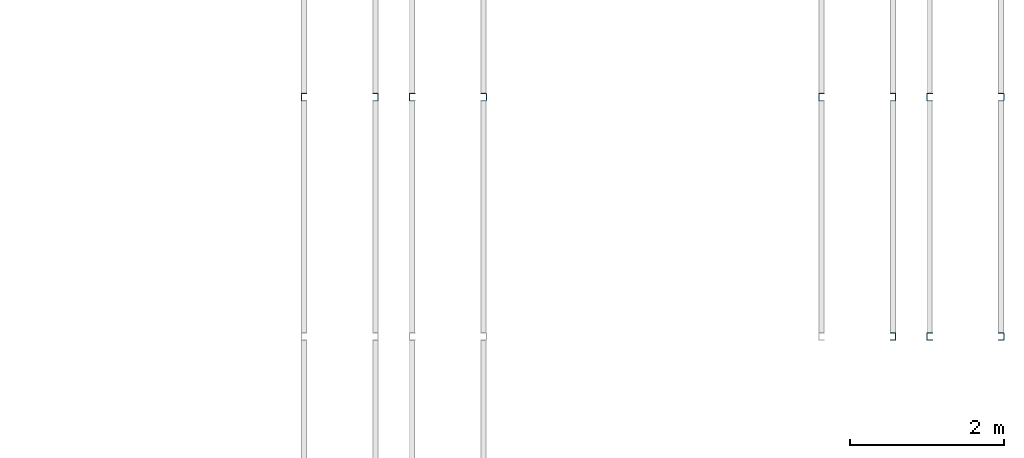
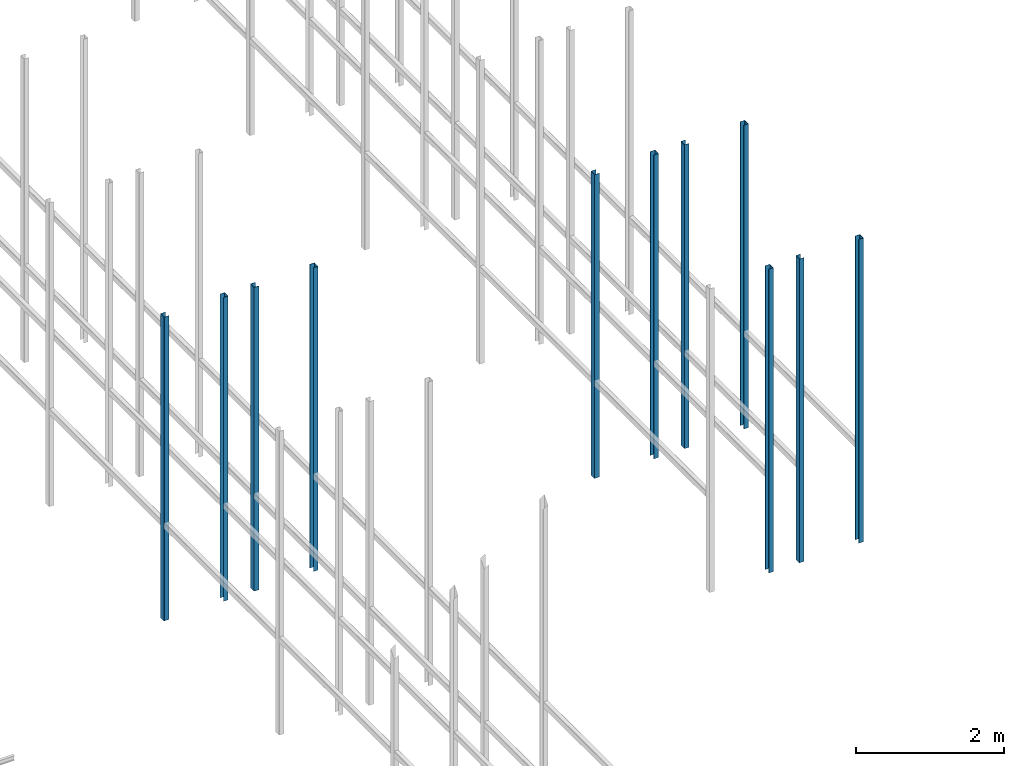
# One storey, part 56 of 302: 11 columns.
"""IFC2X3 building model written with IfcOpenShell, lengths in metres."""

from ifc_helpers import new_model, entity, si_unit, converted_unit, derived_unit, direction, frame, frame_2d, origin, place, context, subcontext, project, spatial, polyline, circle_curve, parameter, trimmed, segment, composite_curve, outline, extrude, source, transform, mapped, material, type_object, type_shapes, element, save


model = new_model("IFC2X3")

# Units and contexts
model_context = context("Model", 3, precision=1e-05, world=origin(), true_north=direction((6.12303176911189e-17, 1.0)))
body_context = subcontext(model_context, "Body", "Model", "MODEL_VIEW")
ifc_project = project(units=[si_unit("LENGTHUNIT", "METRE"), si_unit("AREAUNIT", "SQUARE_METRE"), si_unit("VOLUMEUNIT", "CUBIC_METRE"), converted_unit("PLANEANGLEUNIT", "DEGREE", entity("IfcRatioMeasure", 0.0174532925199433), si_unit("PLANEANGLEUNIT", "RADIAN"), dimensions=[0, 0, 0, 0, 0, 0, 0]), si_unit("MASSUNIT", "GRAM", prefix="KILO"), derived_unit("MASSDENSITYUNIT", [(si_unit("MASSUNIT", "GRAM", prefix="KILO"), 1), (si_unit("LENGTHUNIT", "METRE"), -3)]), derived_unit("MOMENTOFINERTIAUNIT", [(si_unit("LENGTHUNIT", "METRE"), 4)]), si_unit("TIMEUNIT", "SECOND"), si_unit("FREQUENCYUNIT", "HERTZ"), si_unit("THERMODYNAMICTEMPERATUREUNIT", "DEGREE_CELSIUS"), derived_unit("THERMALTRANSMITTANCEUNIT", [(si_unit("MASSUNIT", "GRAM", prefix="KILO"), 1), (si_unit("THERMODYNAMICTEMPERATUREUNIT", "KELVIN"), -1), (si_unit("TIMEUNIT", "SECOND"), -3)]), derived_unit("VOLUMETRICFLOWRATEUNIT", [(si_unit("LENGTHUNIT", "METRE"), 3), (si_unit("TIMEUNIT", "SECOND"), -1)]), si_unit("ELECTRICCURRENTUNIT", "AMPERE"), si_unit("ELECTRICVOLTAGEUNIT", "VOLT"), si_unit("POWERUNIT", "WATT"), si_unit("FORCEUNIT", "NEWTON", prefix="KILO"), si_unit("ILLUMINANCEUNIT", "LUX"), si_unit("LUMINOUSFLUXUNIT", "LUMEN"), si_unit("LUMINOUSINTENSITYUNIT", "CANDELA"), derived_unit("USERDEFINED", [(si_unit("MASSUNIT", "GRAM", prefix="KILO"), -1), (si_unit("LENGTHUNIT", "METRE"), -2), (si_unit("TIMEUNIT", "SECOND"), 3), (si_unit("LUMINOUSFLUXUNIT", "LUMEN"), 1)]), derived_unit("LINEARVELOCITYUNIT", [(si_unit("LENGTHUNIT", "METRE"), 1), (si_unit("TIMEUNIT", "SECOND"), -1)]), si_unit("PRESSUREUNIT", "PASCAL"), derived_unit("USERDEFINED", [(si_unit("LENGTHUNIT", "METRE"), -2), (si_unit("MASSUNIT", "GRAM", prefix="KILO"), 1), (si_unit("TIMEUNIT", "SECOND"), -2)]), derived_unit("LINEARFORCEUNIT", [(si_unit("MASSUNIT", "GRAM", prefix="KILO"), 1), (si_unit("LENGTHUNIT", "METRE"), 1), (si_unit("TIMEUNIT", "SECOND"), -2), (si_unit("LENGTHUNIT", "METRE"), -1)]), derived_unit("PLANARFORCEUNIT", [(si_unit("MASSUNIT", "GRAM", prefix="KILO"), 1), (si_unit("LENGTHUNIT", "METRE"), 1), (si_unit("TIMEUNIT", "SECOND"), -2), (si_unit("LENGTHUNIT", "METRE"), -2)])], contexts=[model_context])

# Site, building, storey
site_placement = place(None, origin())
site = spatial("IfcSite", under=ifc_project, at=site_placement, Name="Default", CompositionType="ELEMENT")
building_placement = place(site_placement, origin())
building = spatial("IfcBuilding", under=site, at=building_placement, CompositionType="ELEMENT")
storey_placement = place(building_placement, frame((0.0, 0.0, -1.3)))
storey = spatial("IfcBuildingStorey", under=building, at=storey_placement, Name="00_EG", CompositionType="ELEMENT", Elevation=-1.3)

# Columns
ifc_material = material(Name="Metall - Baustahl S235")
column_type_1 = type_object("IfcColumnType", Name="Leichter Stahl Schlossschrauben Stütze:C 100", PredefinedType="COLUMN", material=ifc_material)
shared_shape_1 = source(origin(), body_context, "Body", "SweptSolid", [
    extrude(outline(composite_curve([segment(polyline([(-0.0469749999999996, -0.0499999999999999), (0.0214500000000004, -0.0499999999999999)]), True, "CONTINUOUS"), segment(trimmed(circle_curve(frame_2d((0.0214500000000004, -0.0434249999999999), x_axis=(0.0, -1.0)), 0.00657500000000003), [parameter(0.0)], [parameter(89.9999999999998)], True, "PARAMETER"), True, "CONTINUOUS"), segment(polyline([(0.0280250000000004, -0.0434249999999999), (0.0280250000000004, 0.0434250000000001)]), True, "CONTINUOUS"), segment(trimmed(circle_curve(frame_2d((0.0214500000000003, 0.0434250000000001), x_axis=(1.0, 0.0)), 0.0065750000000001), [parameter(0.0)], [parameter(89.9999999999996)], True, "PARAMETER"), True, "CONTINUOUS"), segment(polyline([(0.0214500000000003, 0.0500000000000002), (-0.0469750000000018, 0.0500000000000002)]), True, "CONTINUOUS"), segment(polyline([(-0.0469750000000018, 0.0500000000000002), (-0.0469750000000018, 0.0450000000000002)]), True, "CONTINUOUS"), segment(polyline([(-0.0469750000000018, 0.0450000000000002), (0.0214500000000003, 0.0450000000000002)]), True, "CONTINUOUS"), segment(trimmed(circle_curve(frame_2d((0.0214500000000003, 0.0434249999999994), x_axis=(0.0, 1.0)), 0.00157500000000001), [parameter(269.999999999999)], [parameter(0.0)], True, "PARAMETER"), False, "CONTINUOUS"), segment(polyline([(0.0230250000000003, 0.0434249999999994), (0.0230250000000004, -0.0434249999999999)]), True, "CONTINUOUS"), segment(trimmed(circle_curve(frame_2d((0.0214500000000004, -0.0434249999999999), x_axis=(1.0, 0.0)), 0.00157500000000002), [parameter(270.0)], [parameter(0.0)], True, "PARAMETER"), False, "CONTINUOUS"), segment(polyline([(0.0214500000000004, -0.0449999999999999), (-0.0469749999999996, -0.0449999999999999)]), True, "CONTINUOUS"), segment(polyline([(-0.0469749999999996, -0.0449999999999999), (-0.0469749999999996, -0.0499999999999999)]), True, "CONTINUOUS")], self_intersect=False)), frame((0.0499999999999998, 0.0280250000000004, -0.0300000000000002), z_axis=(0.0, 0.0, 1.0), x_axis=(0.0, -1.0, 0.0)), (0.0, 0.0, 1.0), 5.0),
])
type_shapes(column_type_1, [shared_shape_1])
for number, where, z_axis, x_axis in (
    (1, (-159.193311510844, 45.2480889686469, 1.3), (0.0, 0.0, 1.0), (0.0, -1.0, 0.0)),
    (2, (-157.793311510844, 45.2480889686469, 1.3), (0.0, 0.0, 1.0), (0.0, -1.0, 0.0)),
    (3, (-152.493311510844, 45.2480889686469, 1.3), (0.0, 0.0, 1.0), (0.0, -1.0, 0.0)),
    (4, (-151.093311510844, 42.1480889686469, 1.3), (0.0, 0.0, 1.0), (0.0, -1.0, 0.0)),
    (5, (-151.093311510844, 45.2480889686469, 1.3), (0.0, 0.0, 1.0), (0.0, -1.0, 0.0)),
):
    element("IfcColumn", number, at=place(storey_placement, frame(where, z_axis=z_axis, x_axis=x_axis)), inside=storey, type_object=column_type_1, material=ifc_material, Name="Leichter Stahl Schlossschrauben Stütze:C 100", ObjectType="Leichter Stahl Schlossschrauben Stütze:C 100", context=body_context, shape_type="MappedRepresentation", body=[
        mapped(shared_shape_1, transform((0.0, 0.0, 0.0), scale=1.0)),
    ])
column_type_2 = type_object("IfcColumnType", Name="Leichter Stahl Schlossschrauben Stütze:C 100", PredefinedType="COLUMN", material=ifc_material)
shared_shape_2 = source(origin(), body_context, "Body", "SweptSolid", [
    extrude(outline(composite_curve([segment(polyline([(-0.0214500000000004, -0.0499999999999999), (0.0469749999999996, -0.0499999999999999)]), True, "CONTINUOUS"), segment(polyline([(0.0469749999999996, -0.0499999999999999), (0.0469749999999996, -0.0449999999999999)]), True, "CONTINUOUS"), segment(polyline([(0.0469749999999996, -0.0449999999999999), (-0.0214500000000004, -0.045)]), True, "CONTINUOUS"), segment(trimmed(circle_curve(frame_2d((-0.0214500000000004, -0.043425), x_axis=(0.0, -1.0)), 0.00157500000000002), [parameter(270.0)], [parameter(0.0)], True, "PARAMETER"), False, "CONTINUOUS"), segment(polyline([(-0.0230250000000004, -0.0434249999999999), (-0.0230250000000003, 0.0434249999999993)]), True, "CONTINUOUS"), segment(trimmed(circle_curve(frame_2d((-0.0214500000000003, 0.0434249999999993), x_axis=(-1.0, 0.0)), 0.00157500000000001), [parameter(269.999999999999)], [parameter(0.0)], True, "PARAMETER"), False, "CONTINUOUS"), segment(polyline([(-0.0214500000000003, 0.0450000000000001), (0.0469750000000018, 0.0450000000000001)]), True, "CONTINUOUS"), segment(polyline([(0.0469750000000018, 0.0450000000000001), (0.0469750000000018, 0.0500000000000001)]), True, "CONTINUOUS"), segment(polyline([(0.0469750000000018, 0.0500000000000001), (-0.0214500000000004, 0.0500000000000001)]), True, "CONTINUOUS"), segment(trimmed(circle_curve(frame_2d((-0.0214500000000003, 0.043425), x_axis=(0.0, 1.0)), 0.0065750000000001), [parameter(0.0)], [parameter(89.9999999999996)], True, "PARAMETER"), True, "CONTINUOUS"), segment(polyline([(-0.0280250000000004, 0.043425), (-0.0280250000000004, -0.043425)]), True, "CONTINUOUS"), segment(trimmed(circle_curve(frame_2d((-0.0214500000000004, -0.0434249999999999), x_axis=(-1.0, 0.0)), 0.00657500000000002), [parameter(0.0)], [parameter(89.9999999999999)], True, "PARAMETER"), True, "CONTINUOUS")], self_intersect=False)), frame((0.0499999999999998, -0.0280250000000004, -0.0300000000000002), z_axis=(0.0, 0.0, 1.0), x_axis=(0.0, -1.0, 0.0)), (0.0, 0.0, 1.0), 5.0),
])
type_shapes(column_type_2, [shared_shape_2])
for number, where, z_axis, x_axis in (
    (6, (-158.193311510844, 45.2480889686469, 1.3), (0.0, 0.0, 1.0), (0.0, -1.0, 0.0)),
    (7, (-156.793311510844, 45.2480889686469, 1.3), (0.0, 0.0, 1.0), (0.0, -1.0, 0.0)),
    (8, (-151.493311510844, 42.1480889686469, 1.3), (0.0, 0.0, 1.0), (0.0, -1.0, 0.0)),
    (9, (-151.493311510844, 45.2480889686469, 1.3), (0.0, 0.0, 1.0), (0.0, -1.0, 0.0)),
    (10, (-150.093311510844, 42.1480889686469, 1.3), (0.0, 0.0, 1.0), (0.0, -1.0, 0.0)),
    (11, (-150.093311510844, 45.2480889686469, 1.3), (0.0, 0.0, 1.0), (0.0, -1.0, 0.0)),
):
    element("IfcColumn", number, at=place(storey_placement, frame(where, z_axis=z_axis, x_axis=x_axis)), inside=storey, type_object=column_type_2, material=ifc_material, Name="Leichter Stahl Schlossschrauben Stütze:C 100", ObjectType="Leichter Stahl Schlossschrauben Stütze:C 100", context=body_context, shape_type="MappedRepresentation", body=[
        mapped(shared_shape_2, transform((0.0, 0.0, 0.0), scale=1.0)),
    ])

save(model, "model.ifc")
